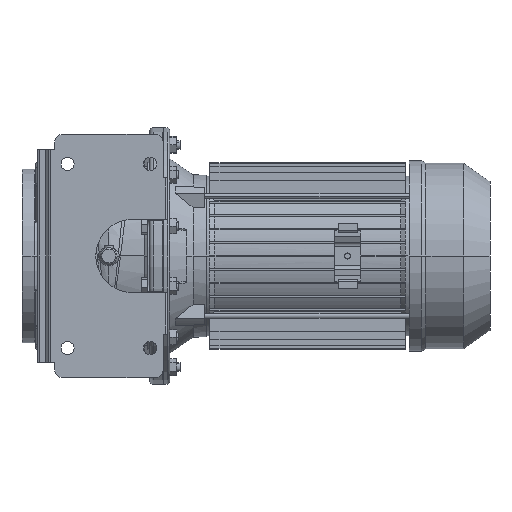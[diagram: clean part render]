
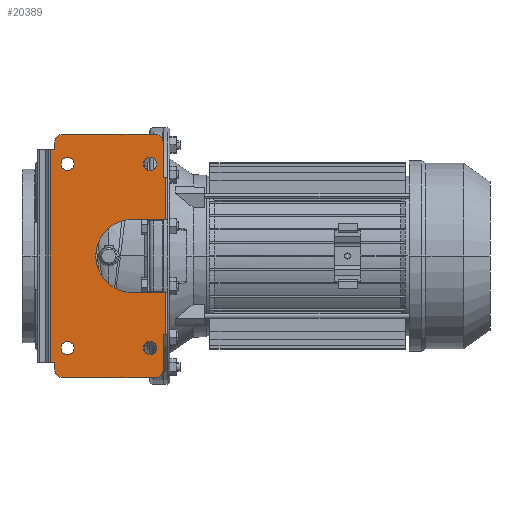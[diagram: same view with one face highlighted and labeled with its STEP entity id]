
A CAD part, front view. The second image highlights one B-rep face of the part: STEP entity #20389.
In plain terms, the highlighted planar face has unit normal (0, -1, 0).
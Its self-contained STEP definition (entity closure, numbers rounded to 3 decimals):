
#17450=CARTESIAN_POINT('',(47.5,-160.,-106.));
#17451=DIRECTION('',(0.,-1.,0.));
#17452=DIRECTION('',(1.,0.,0.));
#17453=AXIS2_PLACEMENT_3D('',#17450,#17451,#17452);
#17455=CARTESIAN_POINT('',(47.5,-160.,-106.));
#17456=DIRECTION('',(0.,-1.,0.));
#17457=DIRECTION('',(-1.,0.,0.));
#17458=AXIS2_PLACEMENT_3D('',#17455,#17456,#17457);
#17460=CARTESIAN_POINT('',(-47.5,-160.,-106.));
#17461=DIRECTION('',(0.,-1.,0.));
#17462=DIRECTION('',(1.,0.,0.));
#17463=AXIS2_PLACEMENT_3D('',#17460,#17461,#17462);
#17465=CARTESIAN_POINT('',(-47.5,-160.,-106.));
#17466=DIRECTION('',(0.,-1.,0.));
#17467=DIRECTION('',(-1.,0.,0.));
#17468=AXIS2_PLACEMENT_3D('',#17465,#17466,#17467);
#17470=CARTESIAN_POINT('',(47.5,-160.,106.));
#17471=DIRECTION('',(0.,-1.,0.));
#17472=DIRECTION('',(1.,0.,0.));
#17473=AXIS2_PLACEMENT_3D('',#17470,#17471,#17472);
#17475=CARTESIAN_POINT('',(47.5,-160.,106.));
#17476=DIRECTION('',(0.,-1.,0.));
#17477=DIRECTION('',(-1.,0.,0.));
#17478=AXIS2_PLACEMENT_3D('',#17475,#17476,#17477);
#17480=CARTESIAN_POINT('',(-47.5,-160.,106.));
#17481=DIRECTION('',(0.,-1.,0.));
#17482=DIRECTION('',(1.,0.,0.));
#17483=AXIS2_PLACEMENT_3D('',#17480,#17481,#17482);
#17485=CARTESIAN_POINT('',(-47.5,-160.,106.));
#17486=DIRECTION('',(0.,-1.,0.));
#17487=DIRECTION('',(-1.,0.,0.));
#17488=AXIS2_PLACEMENT_3D('',#17485,#17486,#17487);
#17490=DIRECTION('',(0.,0.,1.));
#17491=VECTOR('',#17490,48.);
#17492=CARTESIAN_POINT('',(65.5,-160.,-90.));
#17493=LINE('',#17492,#17491);
#17494=DIRECTION('',(0.,0.,-1.));
#17495=VECTOR('',#17494,41.);
#17496=CARTESIAN_POINT('',(62.5,-160.,-90.));
#17497=LINE('',#17496,#17495);
#17498=CARTESIAN_POINT('',(53.5,-160.,-131.));
#17499=DIRECTION('',(0.,-1.,0.));
#17500=DIRECTION('',(0.,0.,-1.));
#17501=AXIS2_PLACEMENT_3D('',#17498,#17499,#17500);
#17503=DIRECTION('',(-1.,0.,0.));
#17504=VECTOR('',#17503,107.);
#17505=CARTESIAN_POINT('',(53.5,-160.,-140.));
#17506=LINE('',#17505,#17504);
#17507=CARTESIAN_POINT('',(-53.5,-160.,-131.));
#17508=DIRECTION('',(0.,-1.,0.));
#17509=DIRECTION('',(-1.,0.,0.));
#17510=AXIS2_PLACEMENT_3D('',#17507,#17508,#17509);
#17512=DIRECTION('',(0.,0.,1.));
#17513=VECTOR('',#17512,8.5);
#17514=CARTESIAN_POINT('',(-62.5,-160.,-131.));
#17515=LINE('',#17514,#17513);
#17516=DIRECTION('',(-1.,0.,0.));
#17517=VECTOR('',#17516,5.172);
#17518=CARTESIAN_POINT('',(-62.5,-160.,-122.5));
#17519=LINE('',#17518,#17517);
#17520=DIRECTION('',(0.,0.,-1.));
#17521=VECTOR('',#17520,245.);
#17522=CARTESIAN_POINT('',(-67.672,-160.,122.5));
#17523=LINE('',#17522,#17521);
#17524=DIRECTION('',(1.,0.,0.));
#17525=VECTOR('',#17524,5.172);
#17526=CARTESIAN_POINT('',(-67.672,-160.,122.5));
#17527=LINE('',#17526,#17525);
#17528=DIRECTION('',(0.,0.,1.));
#17529=VECTOR('',#17528,8.5);
#17530=CARTESIAN_POINT('',(-62.5,-160.,122.5));
#17531=LINE('',#17530,#17529);
#17532=CARTESIAN_POINT('',(-53.5,-160.,131.));
#17533=DIRECTION('',(0.,-1.,0.));
#17534=DIRECTION('',(0.,0.,1.));
#17535=AXIS2_PLACEMENT_3D('',#17532,#17533,#17534);
#17537=DIRECTION('',(1.,0.,0.));
#17538=VECTOR('',#17537,107.);
#17539=CARTESIAN_POINT('',(-53.5,-160.,140.));
#17540=LINE('',#17539,#17538);
#17541=CARTESIAN_POINT('',(53.5,-160.,131.));
#17542=DIRECTION('',(0.,-1.,0.));
#17543=DIRECTION('',(1.,0.,0.));
#17544=AXIS2_PLACEMENT_3D('',#17541,#17542,#17543);
#17546=DIRECTION('',(0.,0.,-1.));
#17547=VECTOR('',#17546,41.);
#17548=CARTESIAN_POINT('',(62.5,-160.,131.));
#17549=LINE('',#17548,#17547);
#17550=DIRECTION('',(0.,0.,1.));
#17551=VECTOR('',#17550,48.);
#17552=CARTESIAN_POINT('',(65.5,-160.,42.));
#17553=LINE('',#17552,#17551);
#17554=CARTESIAN_POINT('',(27.,-160.,0.));
#17555=DIRECTION('',(0.,-1.,0.));
#17556=DIRECTION('',(0.,0.,1.));
#17557=AXIS2_PLACEMENT_3D('',#17554,#17555,#17556);
#17601=DIRECTION('',(1.,0.,0.));
#17602=VECTOR('',#17601,38.5);
#17603=CARTESIAN_POINT('',(27.,-160.,42.));
#17604=LINE('',#17603,#17602);
#17662=DIRECTION('',(-1.,0.,0.));
#17663=VECTOR('',#17662,38.5);
#17664=CARTESIAN_POINT('',(65.5,-160.,-42.));
#17665=LINE('',#17664,#17663);
#18463=DIRECTION('',(1.,0.,0.));
#18464=VECTOR('',#18463,3.);
#18465=CARTESIAN_POINT('',(62.5,-160.,-90.));
#18466=LINE('',#18465,#18464);
#18492=DIRECTION('',(-1.,0.,0.));
#18493=VECTOR('',#18492,3.);
#18494=CARTESIAN_POINT('',(65.5,-160.,90.));
#18495=LINE('',#18494,#18493);
#19236=CARTESIAN_POINT('',(-40.,-160.,106.));
#19237=CARTESIAN_POINT('',(-55.,-160.,106.));
#19238=VERTEX_POINT('',#19236);
#19239=VERTEX_POINT('',#19237);
#19240=CARTESIAN_POINT('',(55.,-160.,106.));
#19241=CARTESIAN_POINT('',(40.,-160.,106.));
#19242=VERTEX_POINT('',#19240);
#19243=VERTEX_POINT('',#19241);
#19244=CARTESIAN_POINT('',(-40.,-160.,-106.));
#19245=CARTESIAN_POINT('',(-55.,-160.,-106.));
#19246=VERTEX_POINT('',#19244);
#19247=VERTEX_POINT('',#19245);
#19248=CARTESIAN_POINT('',(55.,-160.,-106.));
#19249=CARTESIAN_POINT('',(40.,-160.,-106.));
#19250=VERTEX_POINT('',#19248);
#19251=VERTEX_POINT('',#19249);
#19252=CARTESIAN_POINT('',(27.,-160.,42.));
#19253=CARTESIAN_POINT('',(27.,-160.,-42.));
#19254=VERTEX_POINT('',#19252);
#19255=VERTEX_POINT('',#19253);
#19272=CARTESIAN_POINT('',(62.5,-160.,-90.));
#19274=VERTEX_POINT('',#19272);
#19276=CARTESIAN_POINT('',(-62.5,-160.,-122.5));
#19278=VERTEX_POINT('',#19276);
#19280=CARTESIAN_POINT('',(-62.5,-160.,122.5));
#19282=VERTEX_POINT('',#19280);
#19284=CARTESIAN_POINT('',(62.5,-160.,90.));
#19286=VERTEX_POINT('',#19284);
#19293=CARTESIAN_POINT('',(-62.5,-160.,131.));
#19295=VERTEX_POINT('',#19293);
#19298=CARTESIAN_POINT('',(-53.5,-160.,140.));
#19299=VERTEX_POINT('',#19298);
#19301=CARTESIAN_POINT('',(53.5,-160.,140.));
#19303=VERTEX_POINT('',#19301);
#19306=CARTESIAN_POINT('',(62.5,-160.,131.));
#19307=VERTEX_POINT('',#19306);
#19309=CARTESIAN_POINT('',(62.5,-160.,-131.));
#19311=VERTEX_POINT('',#19309);
#19314=CARTESIAN_POINT('',(53.5,-160.,-140.));
#19315=VERTEX_POINT('',#19314);
#19317=CARTESIAN_POINT('',(-53.5,-160.,-140.));
#19319=VERTEX_POINT('',#19317);
#19322=CARTESIAN_POINT('',(-62.5,-160.,-131.));
#19323=VERTEX_POINT('',#19322);
#19432=CARTESIAN_POINT('',(65.5,-160.,42.));
#19434=VERTEX_POINT('',#19432);
#19436=CARTESIAN_POINT('',(65.5,-160.,-42.));
#19438=VERTEX_POINT('',#19436);
#19440=CARTESIAN_POINT('',(65.5,-160.,-90.));
#19441=VERTEX_POINT('',#19440);
#19442=CARTESIAN_POINT('',(65.5,-160.,90.));
#19443=VERTEX_POINT('',#19442);
#19456=CARTESIAN_POINT('',(-67.672,-160.,-122.5));
#19458=VERTEX_POINT('',#19456);
#19462=CARTESIAN_POINT('',(-67.672,-160.,122.5));
#19463=VERTEX_POINT('',#19462);
#20321=CARTESIAN_POINT('',(67.5,-160.,42.));
#20322=DIRECTION('',(0.,1.,0.));
#20323=DIRECTION('',(0.,0.,1.));
#20324=AXIS2_PLACEMENT_3D('',#20321,#20322,#20323);
#20325=PLANE('',#20324);
#20327=ORIENTED_EDGE('',*,*,#20326,.F.);
#20329=ORIENTED_EDGE('',*,*,#20328,.F.);
#20331=ORIENTED_EDGE('',*,*,#20330,.T.);
#20333=ORIENTED_EDGE('',*,*,#20332,.F.);
#20335=ORIENTED_EDGE('',*,*,#20334,.T.);
#20337=ORIENTED_EDGE('',*,*,#20336,.F.);
#20339=ORIENTED_EDGE('',*,*,#20338,.T.);
#20340=ORIENTED_EDGE('',*,*,#19967,.T.);
#20342=ORIENTED_EDGE('',*,*,#20341,.F.);
#20343=ORIENTED_EDGE('',*,*,#20016,.T.);
#20345=ORIENTED_EDGE('',*,*,#20344,.T.);
#20347=ORIENTED_EDGE('',*,*,#20346,.F.);
#20349=ORIENTED_EDGE('',*,*,#20348,.T.);
#20351=ORIENTED_EDGE('',*,*,#20350,.F.);
#20353=ORIENTED_EDGE('',*,*,#20352,.T.);
#20355=ORIENTED_EDGE('',*,*,#20354,.F.);
#20357=ORIENTED_EDGE('',*,*,#20356,.F.);
#20359=ORIENTED_EDGE('',*,*,#20358,.F.);
#20361=ORIENTED_EDGE('',*,*,#20360,.T.);
#20363=ORIENTED_EDGE('',*,*,#20362,.F.);
#20364=EDGE_LOOP('',(#20327,#20329,#20331,#20333,#20335,#20337,#20339,#20340,
#20342,#20343,#20345,#20347,#20349,#20351,#20353,#20355,#20357,#20359,#20361,
#20363));
#20365=FACE_OUTER_BOUND('',#20364,.F.);
#20367=ORIENTED_EDGE('',*,*,#20366,.T.);
#20369=ORIENTED_EDGE('',*,*,#20368,.T.);
#20370=EDGE_LOOP('',(#20367,#20369));
#20371=FACE_BOUND('',#20370,.F.);
#20373=ORIENTED_EDGE('',*,*,#20372,.T.);
#20375=ORIENTED_EDGE('',*,*,#20374,.T.);
#20376=EDGE_LOOP('',(#20373,#20375));
#20377=FACE_BOUND('',#20376,.F.);
#20378=ORIENTED_EDGE('',*,*,#20311,.T.);
#20380=ORIENTED_EDGE('',*,*,#20379,.T.);
#20381=EDGE_LOOP('',(#20378,#20380));
#20382=FACE_BOUND('',#20381,.F.);
#20384=ORIENTED_EDGE('',*,*,#20383,.T.);
#20386=ORIENTED_EDGE('',*,*,#20385,.T.);
#20387=EDGE_LOOP('',(#20384,#20386));
#20388=FACE_BOUND('',#20387,.F.);
#17454=CIRCLE('',#17453,7.5);
#17459=CIRCLE('',#17458,7.5);
#17464=CIRCLE('',#17463,7.5);
#17469=CIRCLE('',#17468,7.5);
#17474=CIRCLE('',#17473,7.5);
#17479=CIRCLE('',#17478,7.5);
#17484=CIRCLE('',#17483,7.5);
#17489=CIRCLE('',#17488,7.5);
#17502=CIRCLE('',#17501,9.);
#17511=CIRCLE('',#17510,9.);
#17536=CIRCLE('',#17535,9.);
#17545=CIRCLE('',#17544,9.);
#17558=CIRCLE('',#17557,42.);
#19967=EDGE_CURVE('',#19278,#19458,#17519,.T.);
#20016=EDGE_CURVE('',#19463,#19282,#17527,.T.);
#20311=EDGE_CURVE('',#19238,#19239,#17484,.T.);
#20326=EDGE_CURVE('',#19441,#19438,#17493,.T.);
#20328=EDGE_CURVE('',#19274,#19441,#18466,.T.);
#20330=EDGE_CURVE('',#19274,#19311,#17497,.T.);
#20332=EDGE_CURVE('',#19315,#19311,#17502,.T.);
#20334=EDGE_CURVE('',#19315,#19319,#17506,.T.);
#20336=EDGE_CURVE('',#19323,#19319,#17511,.T.);
#20338=EDGE_CURVE('',#19323,#19278,#17515,.T.);
#20341=EDGE_CURVE('',#19463,#19458,#17523,.T.);
#20344=EDGE_CURVE('',#19282,#19295,#17531,.T.);
#20346=EDGE_CURVE('',#19299,#19295,#17536,.T.);
#20348=EDGE_CURVE('',#19299,#19303,#17540,.T.);
#20350=EDGE_CURVE('',#19307,#19303,#17545,.T.);
#20352=EDGE_CURVE('',#19307,#19286,#17549,.T.);
#20354=EDGE_CURVE('',#19443,#19286,#18495,.T.);
#20356=EDGE_CURVE('',#19434,#19443,#17553,.T.);
#20358=EDGE_CURVE('',#19254,#19434,#17604,.T.);
#20360=EDGE_CURVE('',#19254,#19255,#17558,.T.);
#20362=EDGE_CURVE('',#19438,#19255,#17665,.T.);
#20366=EDGE_CURVE('',#19246,#19247,#17464,.T.);
#20368=EDGE_CURVE('',#19247,#19246,#17469,.T.);
#20372=EDGE_CURVE('',#19242,#19243,#17474,.T.);
#20374=EDGE_CURVE('',#19243,#19242,#17479,.T.);
#20379=EDGE_CURVE('',#19239,#19238,#17489,.T.);
#20383=EDGE_CURVE('',#19250,#19251,#17454,.T.);
#20385=EDGE_CURVE('',#19251,#19250,#17459,.T.);
#20389=ADVANCED_FACE('',(#20365,#20371,#20377,#20382,#20388),#20325,.F.);
